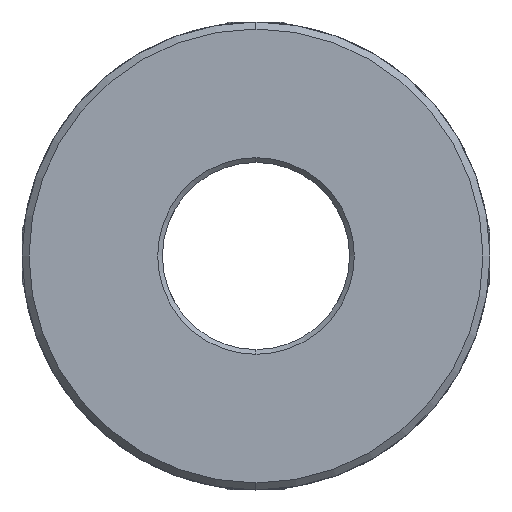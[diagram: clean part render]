
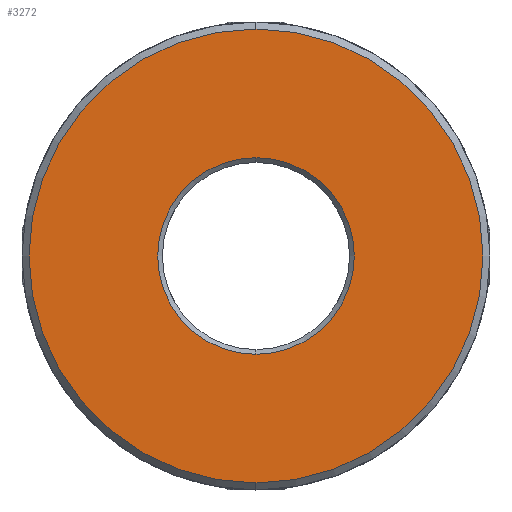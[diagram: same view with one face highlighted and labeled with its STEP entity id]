
A CAD part, front view. The second image highlights one B-rep face of the part: STEP entity #3272.
In plain terms, the highlighted planar face has unit normal (0, -1, 0).
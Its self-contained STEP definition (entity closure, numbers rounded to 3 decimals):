
#57 = EDGE_CURVE ( 'NONE', #553, #5110, #7046, .T. ) ;
#134 = CARTESIAN_POINT ( 'NONE',  ( 0., 0., 0. ) ) ;
#180 = CARTESIAN_POINT ( 'NONE',  ( 0., 0., 0. ) ) ;
#553 = VERTEX_POINT ( 'NONE', #2360 ) ;
#659 = CARTESIAN_POINT ( 'NONE',  ( 0., 0., -8.4 ) ) ;
#744 = CIRCLE ( 'NONE', #1196, 8.4 ) ;
#1031 = AXIS2_PLACEMENT_3D ( 'NONE', #4122, #4670, #5882 ) ;
#1115 = FACE_BOUND ( 'NONE', #5563, .T. ) ;
#1196 = AXIS2_PLACEMENT_3D ( 'NONE', #180, #5443, #4321 ) ;
#1202 = DIRECTION ( 'NONE',  ( 0., 1., 0. ) ) ;
#1716 = CARTESIAN_POINT ( 'NONE',  ( 0., 0., -19.4 ) ) ;
#1790 = AXIS2_PLACEMENT_3D ( 'NONE', #3366, #1202, #2586 ) ;
#2007 = CARTESIAN_POINT ( 'NONE',  ( 0., 0., 0. ) ) ;
#2045 = PLANE ( 'NONE',  #1790 ) ;
#2360 = CARTESIAN_POINT ( 'NONE',  ( 0., 0., 8.4 ) ) ;
#2508 = DIRECTION ( 'NONE',  ( 0., 0., 1. ) ) ;
#2586 = DIRECTION ( 'NONE',  ( 0., 0., 1. ) ) ;
#2692 = EDGE_CURVE ( 'NONE', #5110, #553, #744, .T. ) ;
#2797 = EDGE_LOOP ( 'NONE', ( #3682, #6979 ) ) ;
#2813 = VERTEX_POINT ( 'NONE', #1716 ) ;
#3004 = CARTESIAN_POINT ( 'NONE',  ( 0., 0., 19.4 ) ) ;
#3043 = DIRECTION ( 'NONE',  ( 0., -1., 0. ) ) ;
#3138 = VERTEX_POINT ( 'NONE', #3004 ) ;
#3159 = EDGE_CURVE ( 'NONE', #2813, #3138, #4025, .T. ) ;
#3243 = CIRCLE ( 'NONE', #4378, 19.4 ) ;
#3272 = ADVANCED_FACE ( 'NONE', ( #1115, #4215 ), #2045, .F. ) ;
#3366 = CARTESIAN_POINT ( 'NONE',  ( 24.74, 0., -50. ) ) ;
#3682 = ORIENTED_EDGE ( 'NONE', *, *, #6966, .T. ) ;
#4025 = CIRCLE ( 'NONE', #6363, 19.4 ) ;
#4122 = CARTESIAN_POINT ( 'NONE',  ( 0., 0., 0. ) ) ;
#4215 = FACE_OUTER_BOUND ( 'NONE', #2797, .T. ) ;
#4321 = DIRECTION ( 'NONE',  ( 0., 0., 1. ) ) ;
#4378 = AXIS2_PLACEMENT_3D ( 'NONE', #2007, #3043, #7249 ) ;
#4670 = DIRECTION ( 'NONE',  ( 0., 1., 0. ) ) ;
#4929 = DIRECTION ( 'NONE',  ( 0., -1., 0. ) ) ;
#5110 = VERTEX_POINT ( 'NONE', #659 ) ;
#5281 = ORIENTED_EDGE ( 'NONE', *, *, #2692, .T. ) ;
#5443 = DIRECTION ( 'NONE',  ( 0., 1., 0. ) ) ;
#5563 = EDGE_LOOP ( 'NONE', ( #5281, #7456 ) ) ;
#5882 = DIRECTION ( 'NONE',  ( 0., 0., 1. ) ) ;
#6363 = AXIS2_PLACEMENT_3D ( 'NONE', #134, #4929, #2508 ) ;
#6966 = EDGE_CURVE ( 'NONE', #3138, #2813, #3243, .T. ) ;
#6979 = ORIENTED_EDGE ( 'NONE', *, *, #3159, .T. ) ;
#7046 = CIRCLE ( 'NONE', #1031, 8.4 ) ;
#7249 = DIRECTION ( 'NONE',  ( 0., 0., 1. ) ) ;
#7456 = ORIENTED_EDGE ( 'NONE', *, *, #57, .T. ) ;
